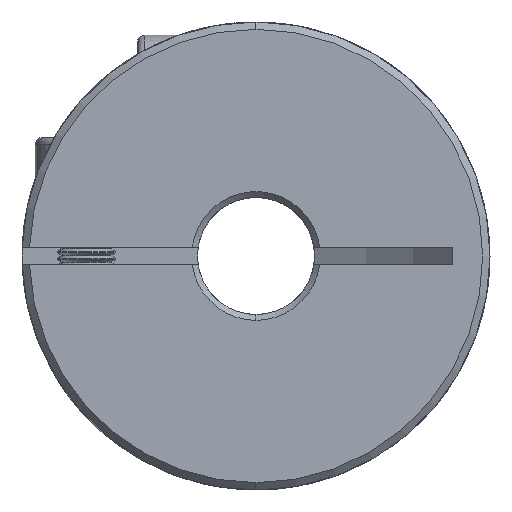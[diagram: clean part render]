
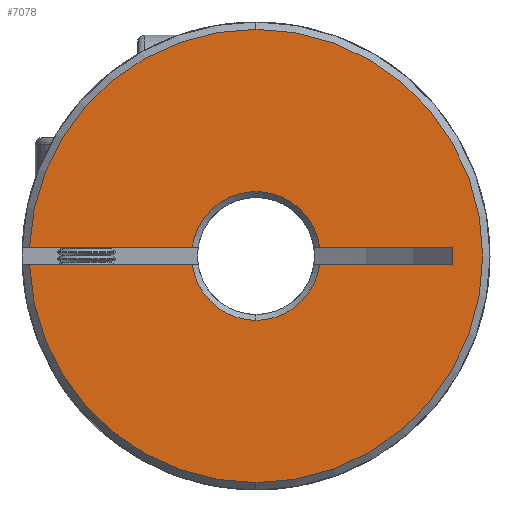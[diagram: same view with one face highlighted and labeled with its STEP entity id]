
A CAD part, front view. The second image highlights one B-rep face of the part: STEP entity #7078.
In plain terms, the highlighted planar face has unit normal (0, -1, 0).
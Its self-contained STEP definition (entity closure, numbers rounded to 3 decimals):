
#58 = VERTEX_POINT ( 'NONE', #1968 ) ;
#119 = ORIENTED_EDGE ( 'NONE', *, *, #8084, .F. ) ;
#192 = LINE ( 'NONE', #5030, #10321 ) ;
#272 = ORIENTED_EDGE ( 'NONE', *, *, #9116, .T. ) ;
#290 = CARTESIAN_POINT ( 'NONE',  ( -4.359, 0., 0.6 ) ) ;
#619 = CARTESIAN_POINT ( 'NONE',  ( 13.436, 0., -0.6 ) ) ;
#770 = DIRECTION ( 'NONE',  ( 0., -1., 0. ) ) ;
#1046 = DIRECTION ( 'NONE',  ( 0., 0., 1. ) ) ;
#1088 = AXIS2_PLACEMENT_3D ( 'NONE', #6204, #1760, #1046 ) ;
#1352 = AXIS2_PLACEMENT_3D ( 'NONE', #6482, #7373, #10019 ) ;
#1400 = CARTESIAN_POINT ( 'NONE',  ( 0., 0., -15.5 ) ) ;
#1452 = DIRECTION ( 'NONE',  ( 0., -1., 0. ) ) ;
#1596 = DIRECTION ( 'NONE',  ( 0., 0., -1. ) ) ;
#1746 = CARTESIAN_POINT ( 'NONE',  ( 0., 0., 0. ) ) ;
#1760 = DIRECTION ( 'NONE',  ( 0., 1., 0. ) ) ;
#1781 = VERTEX_POINT ( 'NONE', #1400 ) ;
#1812 = CIRCLE ( 'NONE', #2916, 15.5 ) ;
#1968 = CARTESIAN_POINT ( 'NONE',  ( -4.359, 0., -0.6 ) ) ;
#2094 = VERTEX_POINT ( 'NONE', #290 ) ;
#2133 = CARTESIAN_POINT ( 'NONE',  ( 13.436, 0., 0.6 ) ) ;
#2204 = EDGE_CURVE ( 'NONE', #10374, #7725, #1812, .T. ) ;
#2227 = EDGE_CURVE ( 'NONE', #3286, #3488, #10057, .T. ) ;
#2339 = EDGE_CURVE ( 'NONE', #5904, #3488, #192, .T. ) ;
#2369 = EDGE_CURVE ( 'NONE', #5904, #3714, #9792, .T. ) ;
#2490 = ORIENTED_EDGE ( 'NONE', *, *, #2369, .T. ) ;
#2689 = DIRECTION ( 'NONE',  ( 0., 0., 1. ) ) ;
#2695 = LINE ( 'NONE', #8877, #9448 ) ;
#2822 = DIRECTION ( 'NONE',  ( 1., 0., 0. ) ) ;
#2890 = ORIENTED_EDGE ( 'NONE', *, *, #3532, .T. ) ;
#2916 = AXIS2_PLACEMENT_3D ( 'NONE', #6751, #770, #4152 ) ;
#2972 = VERTEX_POINT ( 'NONE', #10418 ) ;
#3286 = VERTEX_POINT ( 'NONE', #2133 ) ;
#3365 = CARTESIAN_POINT ( 'NONE',  ( -50., 0., -0.6 ) ) ;
#3488 = VERTEX_POINT ( 'NONE', #619 ) ;
#3532 = EDGE_CURVE ( 'NONE', #2094, #10598, #5957, .T. ) ;
#3682 = LINE ( 'NONE', #3365, #9778 ) ;
#3714 = VERTEX_POINT ( 'NONE', #10560 ) ;
#3986 = EDGE_LOOP ( 'NONE', ( #119, #8332, #5383, #10775, #272, #2890, #4287, #8511, #9164, #2490, #6255 ) ) ;
#4152 = DIRECTION ( 'NONE',  ( 0., 0., 1. ) ) ;
#4287 = ORIENTED_EDGE ( 'NONE', *, *, #10463, .T. ) ;
#4715 = AXIS2_PLACEMENT_3D ( 'NONE', #9329, #1452, #6604 ) ;
#4837 = CARTESIAN_POINT ( 'NONE',  ( 4.359, 0., 0.6 ) ) ;
#5030 = CARTESIAN_POINT ( 'NONE',  ( -50., 0., -0.6 ) ) ;
#5142 = CARTESIAN_POINT ( 'NONE',  ( 4.359, 0., -0.6 ) ) ;
#5176 = DIRECTION ( 'NONE',  ( 0., 0., 1. ) ) ;
#5294 = EDGE_CURVE ( 'NONE', #3714, #58, #8655, .T. ) ;
#5383 = ORIENTED_EDGE ( 'NONE', *, *, #10185, .T. ) ;
#5430 = DIRECTION ( 'NONE',  ( 1., 0., 0. ) ) ;
#5822 = DIRECTION ( 'NONE',  ( 1., 0., 0. ) ) ;
#5904 = VERTEX_POINT ( 'NONE', #5142 ) ;
#5957 = CIRCLE ( 'NONE', #9550, 4.4 ) ;
#6067 = CIRCLE ( 'NONE', #4715, 15.5 ) ;
#6079 = DIRECTION ( 'NONE',  ( 0., 0., 1. ) ) ;
#6131 = PLANE ( 'NONE',  #1088 ) ;
#6204 = CARTESIAN_POINT ( 'NONE',  ( -50., 0., -18.413 ) ) ;
#6255 = ORIENTED_EDGE ( 'NONE', *, *, #5294, .T. ) ;
#6482 = CARTESIAN_POINT ( 'NONE',  ( 0., 0., 0. ) ) ;
#6604 = DIRECTION ( 'NONE',  ( 0., 0., 1. ) ) ;
#6751 = CARTESIAN_POINT ( 'NONE',  ( 0., 0., 0. ) ) ;
#6875 = CARTESIAN_POINT ( 'NONE',  ( 0., 0., 15.5 ) ) ;
#6944 = DIRECTION ( 'NONE',  ( 0., 1., 0. ) ) ;
#7078 = ADVANCED_FACE ( 'NONE', ( #7337 ), #6131, .F. ) ;
#7337 = FACE_OUTER_BOUND ( 'NONE', #3986, .T. ) ;
#7373 = DIRECTION ( 'NONE',  ( 0., -1., 0. ) ) ;
#7578 = VECTOR ( 'NONE', #5430, 1000. ) ;
#7725 = VERTEX_POINT ( 'NONE', #8247 ) ;
#7938 = CARTESIAN_POINT ( 'NONE',  ( 0., 0., 0. ) ) ;
#7996 = LINE ( 'NONE', #8798, #7578 ) ;
#8084 = EDGE_CURVE ( 'NONE', #2972, #58, #3682, .T. ) ;
#8247 = CARTESIAN_POINT ( 'NONE',  ( -15.488, 0., 0.6 ) ) ;
#8332 = ORIENTED_EDGE ( 'NONE', *, *, #11195, .T. ) ;
#8451 = AXIS2_PLACEMENT_3D ( 'NONE', #7938, #8778, #2689 ) ;
#8511 = ORIENTED_EDGE ( 'NONE', *, *, #2227, .T. ) ;
#8655 = CIRCLE ( 'NONE', #8451, 4.4 ) ;
#8778 = DIRECTION ( 'NONE',  ( 0., 1., 0. ) ) ;
#8798 = CARTESIAN_POINT ( 'NONE',  ( -50., 0., 0.6 ) ) ;
#8877 = CARTESIAN_POINT ( 'NONE',  ( -50., 0., 0.6 ) ) ;
#8980 = VECTOR ( 'NONE', #1596, 1000. ) ;
#9116 = EDGE_CURVE ( 'NONE', #7725, #2094, #7996, .T. ) ;
#9164 = ORIENTED_EDGE ( 'NONE', *, *, #2339, .F. ) ;
#9329 = CARTESIAN_POINT ( 'NONE',  ( 0., 0., 0. ) ) ;
#9448 = VECTOR ( 'NONE', #2822, 1000. ) ;
#9460 = DIRECTION ( 'NONE',  ( 1., 0., 0. ) ) ;
#9550 = AXIS2_PLACEMENT_3D ( 'NONE', #1746, #6944, #6079 ) ;
#9778 = VECTOR ( 'NONE', #9460, 1000. ) ;
#9792 = CIRCLE ( 'NONE', #10226, 4.4 ) ;
#10019 = DIRECTION ( 'NONE',  ( 0., 0., 1. ) ) ;
#10057 = LINE ( 'NONE', #10999, #8980 ) ;
#10185 = EDGE_CURVE ( 'NONE', #1781, #10374, #6067, .T. ) ;
#10226 = AXIS2_PLACEMENT_3D ( 'NONE', #10328, #10369, #5176 ) ;
#10321 = VECTOR ( 'NONE', #5822, 1000. ) ;
#10328 = CARTESIAN_POINT ( 'NONE',  ( 0., 0., 0. ) ) ;
#10369 = DIRECTION ( 'NONE',  ( 0., 1., 0. ) ) ;
#10374 = VERTEX_POINT ( 'NONE', #6875 ) ;
#10418 = CARTESIAN_POINT ( 'NONE',  ( -15.488, 0., -0.6 ) ) ;
#10463 = EDGE_CURVE ( 'NONE', #10598, #3286, #2695, .T. ) ;
#10525 = CIRCLE ( 'NONE', #1352, 15.5 ) ;
#10560 = CARTESIAN_POINT ( 'NONE',  ( 0., 0., -4.4 ) ) ;
#10598 = VERTEX_POINT ( 'NONE', #4837 ) ;
#10775 = ORIENTED_EDGE ( 'NONE', *, *, #2204, .T. ) ;
#10999 = CARTESIAN_POINT ( 'NONE',  ( 13.436, 0., -0.6 ) ) ;
#11195 = EDGE_CURVE ( 'NONE', #2972, #1781, #10525, .T. ) ;
